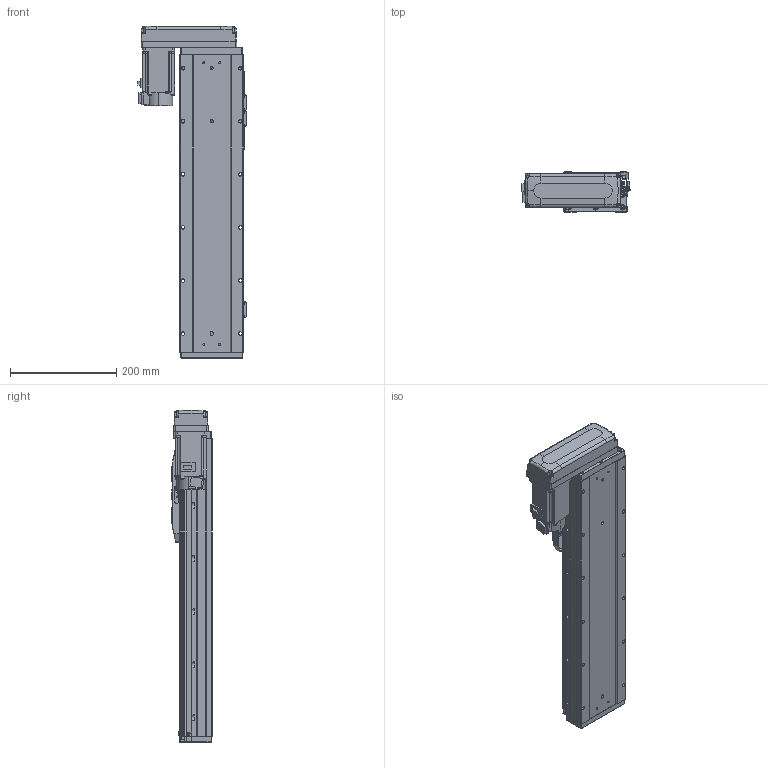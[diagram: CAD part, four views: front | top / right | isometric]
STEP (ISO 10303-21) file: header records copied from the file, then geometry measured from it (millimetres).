
FILE_DESCRIPTION (( 'STEP AP203' ), '1' );
FILE_NAME ('GTH12-350-BR-M40-C4.step', '2023-07-05T00:05:46', ( '微软用户' ), ( '微软中国' ), 'SwSTEP 2.0', 'SolidWorks 2020', '' );
FILE_SCHEMA (( 'CONFIG_CONTROL_DESIGN' ));
Length unit declared in the file: millimetre
Products named in the file (18): GBT 70.1-M5×16; BTH-M3X5X6; GTH120-001_350; GBT 70.3-M3℅8; hg-kn43j_-s100_; GTH120-003; GTH80-022; CTHA86-033_M40B; GTH120-006; GTH80-028; GTH120-027-1_GTH120-027-2; GTH120-004; GTH50-023; GTH12-350-BR-M40-C4; GTH120-013; GTH50-024; GBT 70.1-M3℅6; GBT96.1-2002 3×0.8
Assembly tree (59 placements, depth 2):
  GTH12-350-BR-M40-C4
    GTH120-001_350
    GTH120-003
    GTH120-006
    GTH120-004
    GTH120-013
    GBT 70.1-M3℅6  x14
    GBT 70.1-M5×16  x10
    GBT 70.3-M3℅8  x4
    GTH80-022
    GTH80-028  x2
    GTH50-023  x3
    GTH50-024  x3
    GBT96.1-2002 3×0.8  x6
    BTH-M3X5X6  x8
    hg-kn43j_-s100_
    CTHA86-033_M40B
    GTH120-027-1_GTH120-027-2
Bounding box: 203.5 x 76 x 625.5 mm (x, y, z)
Volume: 4932266.4 mm3; surface area: 510164.7 mm2
Topology: 61 solids, 61 shells, 2382 faces, 5533 edges, 3393 vertices
Faces by surface type: plane 1238, cylinder 676, cone 280, torus 174, sphere 8, bspline 6
Entity records: 43663 total; most frequent: CARTESIAN_POINT 7394, DIRECTION 7197, ORIENTED_EDGE 6676, EDGE_CURVE 3338, AXIS2_PLACEMENT_3D 2517, LINE 2163, VECTOR 2163, VERTEX_POINT 2114
